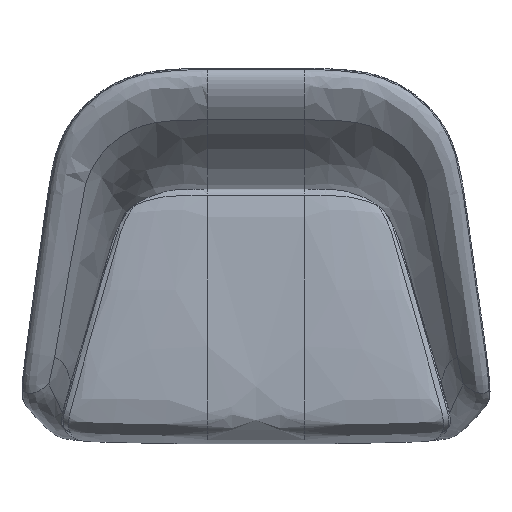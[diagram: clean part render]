
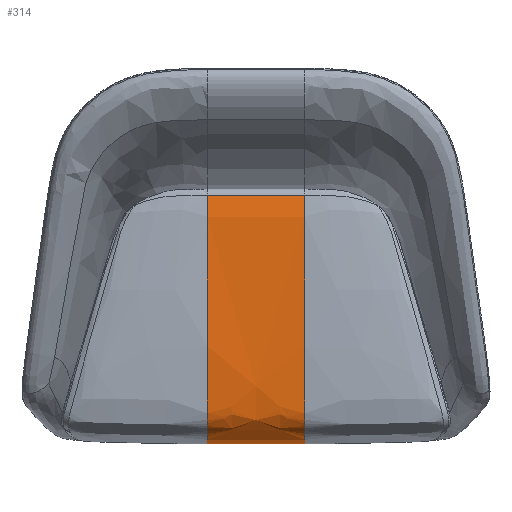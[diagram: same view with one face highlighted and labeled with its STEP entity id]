
A CAD part, top view. The second image highlights one B-rep face of the part: STEP entity #314.
In plain terms, the highlighted free-form (B-spline) face has degree [3, 1] with [18, 2] control points.
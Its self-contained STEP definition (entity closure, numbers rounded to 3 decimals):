
#15=B_SPLINE_SURFACE_WITH_KNOTS('',3,1,((#4010,#4011),(#4012,#4013),(#4014,
#4015),(#4016,#4017),(#4018,#4019),(#4020,#4021),(#4022,#4023),(#4024,#4025),
(#4026,#4027),(#4028,#4029),(#4030,#4031),(#4032,#4033),(#4034,#4035),(#4036,
#4037),(#4038,#4039),(#4040,#4041),(#4042,#4043),(#4044,#4045)),
 .UNSPECIFIED.,.F.,.F.,.F.,(4,2,2,1,1,1,1,1,1,1,1,1,1,4),(2,2),(0.,0.25,
0.5,1.,2.,3.,4.,5.,6.,7.,8.,9.,10.,11.),(0.,205.),
 .UNSPECIFIED.);
#314=ADVANCED_FACE('',(#427),#15,.T.);
#427=FACE_OUTER_BOUND('',#540,.T.);
#540=EDGE_LOOP('',(#851,#852,#853,#854));
#851=ORIENTED_EDGE('',*,*,#1249,.T.);
#852=ORIENTED_EDGE('',*,*,#1244,.T.);
#853=ORIENTED_EDGE('',*,*,#1250,.F.);
#854=ORIENTED_EDGE('',*,*,#1245,.T.);
#1244=EDGE_CURVE('',#1493,#1481,#1753,.T.);
#1245=EDGE_CURVE('',#1482,#1492,#1754,.T.);
#1249=EDGE_CURVE('',#1492,#1493,#1758,.T.);
#1250=EDGE_CURVE('',#1482,#1481,#1759,.T.);
#1481=VERTEX_POINT('',#5032);
#1482=VERTEX_POINT('',#5033);
#1492=VERTEX_POINT('',#5043);
#1493=VERTEX_POINT('',#5044);
#1753=B_SPLINE_CURVE_WITH_KNOTS('',1,(#5325,#5326),.UNSPECIFIED.,.F.,.F.,
(2,2),(0.,205.),.UNSPECIFIED.);
#1754=B_SPLINE_CURVE_WITH_KNOTS('',1,(#5327,#5328),.UNSPECIFIED.,.F.,.F.,
(2,2),(-205.,0.),.UNSPECIFIED.);
#1758=B_SPLINE_CURVE_WITH_KNOTS('',3,(#5349,#5350,#5351,#5352,#5353,#5354,
#5355,#5356,#5357,#5358,#5359,#5360,#5361,#5362,#5363,#5364,#5365,#5366,
#5367,#5368,#5369),.UNSPECIFIED.,.F.,.F.,(4,2,2,1,1,1,1,1,1,1,1,1,1,3,4),
(0.,0.25,0.5,1.,2.,3.,4.,5.,6.,7.,8.,9.,10.,10.204,11.),
 .UNSPECIFIED.);
#1759=B_SPLINE_CURVE_WITH_KNOTS('',3,(#5370,#5371,#5372,#5373,#5374,#5375,
#5376,#5377,#5378,#5379,#5380,#5381,#5382,#5383,#5384,#5385,#5386,#5387,
#5388,#5389,#5390),.UNSPECIFIED.,.F.,.F.,(4,2,2,1,1,1,1,1,1,1,1,1,1,3,4),
(0.,0.25,0.5,1.,2.,3.,4.,5.,6.,7.,8.,9.,10.,10.204,11.),
 .UNSPECIFIED.);
#4010=CARTESIAN_POINT('',(-102.5,209.829,397.851));
#4011=CARTESIAN_POINT('',(102.5,209.829,397.851));
#4012=CARTESIAN_POINT('',(-102.5,206.401,398.865));
#4013=CARTESIAN_POINT('',(102.5,206.401,398.865));
#4014=CARTESIAN_POINT('',(-102.5,202.077,399.82));
#4015=CARTESIAN_POINT('',(102.5,202.077,399.82));
#4016=CARTESIAN_POINT('',(-102.5,191.833,401.609));
#4017=CARTESIAN_POINT('',(102.5,191.833,401.609));
#4018=CARTESIAN_POINT('',(-102.5,185.915,402.442));
#4019=CARTESIAN_POINT('',(102.5,185.915,402.442));
#4020=CARTESIAN_POINT('',(-102.5,166.07,404.747));
#4021=CARTESIAN_POINT('',(102.5,166.07,404.747));
#4022=CARTESIAN_POINT('',(-102.5,118.019,408.585));
#4023=CARTESIAN_POINT('',(102.5,118.019,408.585));
#4024=CARTESIAN_POINT('',(-102.5,8.156,410.729));
#4025=CARTESIAN_POINT('',(102.5,8.156,410.729));
#4026=CARTESIAN_POINT('',(-102.5,-117.633,410.376));
#4027=CARTESIAN_POINT('',(102.5,-117.633,410.376));
#4028=CARTESIAN_POINT('',(-102.5,-234.487,407.788));
#4029=CARTESIAN_POINT('',(102.5,-234.487,407.788));
#4030=CARTESIAN_POINT('',(-102.5,-278.296,397.402));
#4031=CARTESIAN_POINT('',(102.5,-278.296,397.402));
#4032=CARTESIAN_POINT('',(-102.5,-299.674,365.849));
#4033=CARTESIAN_POINT('',(102.5,-299.674,365.849));
#4034=CARTESIAN_POINT('',(-102.5,-313.725,297.224));
#4035=CARTESIAN_POINT('',(102.5,-313.725,297.224));
#4036=CARTESIAN_POINT('',(-102.5,-316.561,232.135));
#4037=CARTESIAN_POINT('',(102.5,-316.561,232.135));
#4038=CARTESIAN_POINT('',(-102.5,-310.,200.));
#4039=CARTESIAN_POINT('',(102.5,-310.,200.));
#4040=CARTESIAN_POINT('',(-102.5,-301.38,200.));
#4041=CARTESIAN_POINT('',(102.5,-301.38,200.));
#4042=CARTESIAN_POINT('',(-102.5,-280.42,200.));
#4043=CARTESIAN_POINT('',(102.5,-280.42,200.));
#4044=CARTESIAN_POINT('',(-102.5,-269.94,200.));
#4045=CARTESIAN_POINT('',(102.5,-269.94,200.));
#5032=CARTESIAN_POINT('',(102.5,-269.94,200.));
#5033=CARTESIAN_POINT('',(102.5,209.829,397.851));
#5043=CARTESIAN_POINT('',(-102.5,209.829,397.851));
#5044=CARTESIAN_POINT('',(-102.5,-269.94,200.));
#5325=CARTESIAN_POINT('',(-102.5,-269.94,200.));
#5326=CARTESIAN_POINT('',(102.5,-269.94,200.));
#5327=CARTESIAN_POINT('',(102.5,209.829,397.851));
#5328=CARTESIAN_POINT('',(-102.5,209.829,397.851));
#5349=CARTESIAN_POINT('',(-102.5,209.829,397.851));
#5350=CARTESIAN_POINT('',(-102.5,206.401,398.865));
#5351=CARTESIAN_POINT('',(-102.5,202.077,399.82));
#5352=CARTESIAN_POINT('',(-102.5,191.833,401.609));
#5353=CARTESIAN_POINT('',(-102.5,185.915,402.442));
#5354=CARTESIAN_POINT('',(-102.5,166.07,404.747));
#5355=CARTESIAN_POINT('',(-102.5,118.019,408.585));
#5356=CARTESIAN_POINT('',(-102.5,8.156,410.729));
#5357=CARTESIAN_POINT('',(-102.5,-117.633,410.376));
#5358=CARTESIAN_POINT('',(-102.5,-234.487,407.788));
#5359=CARTESIAN_POINT('',(-102.5,-278.296,397.402));
#5360=CARTESIAN_POINT('',(-102.5,-299.674,365.849));
#5361=CARTESIAN_POINT('',(-102.5,-313.725,297.224));
#5362=CARTESIAN_POINT('',(-102.5,-316.561,232.135));
#5363=CARTESIAN_POINT('',(-102.5,-310.,200.));
#5364=CARTESIAN_POINT('',(-102.5,-303.668,200.));
#5365=CARTESIAN_POINT('',(-102.5,-294.696,200.));
#5366=CARTESIAN_POINT('',(-102.5,-293.051,200.));
#5367=CARTESIAN_POINT('',(-102.5,-286.627,200.));
#5368=CARTESIAN_POINT('',(-102.5,-278.283,200.));
#5369=CARTESIAN_POINT('',(-102.5,-269.94,200.));
#5370=CARTESIAN_POINT('',(102.5,209.829,397.851));
#5371=CARTESIAN_POINT('',(102.5,206.401,398.865));
#5372=CARTESIAN_POINT('',(102.5,202.077,399.82));
#5373=CARTESIAN_POINT('',(102.5,191.833,401.609));
#5374=CARTESIAN_POINT('',(102.5,185.915,402.442));
#5375=CARTESIAN_POINT('',(102.5,166.07,404.747));
#5376=CARTESIAN_POINT('',(102.5,118.019,408.585));
#5377=CARTESIAN_POINT('',(102.5,8.156,410.729));
#5378=CARTESIAN_POINT('',(102.5,-117.633,410.376));
#5379=CARTESIAN_POINT('',(102.5,-234.487,407.788));
#5380=CARTESIAN_POINT('',(102.5,-278.296,397.402));
#5381=CARTESIAN_POINT('',(102.5,-299.674,365.849));
#5382=CARTESIAN_POINT('',(102.5,-313.725,297.224));
#5383=CARTESIAN_POINT('',(102.5,-316.561,232.135));
#5384=CARTESIAN_POINT('',(102.5,-310.,200.));
#5385=CARTESIAN_POINT('',(102.5,-303.668,200.));
#5386=CARTESIAN_POINT('',(102.5,-294.696,200.));
#5387=CARTESIAN_POINT('',(102.5,-293.051,200.));
#5388=CARTESIAN_POINT('',(102.5,-286.627,200.));
#5389=CARTESIAN_POINT('',(102.5,-278.283,200.));
#5390=CARTESIAN_POINT('',(102.5,-269.94,200.));
